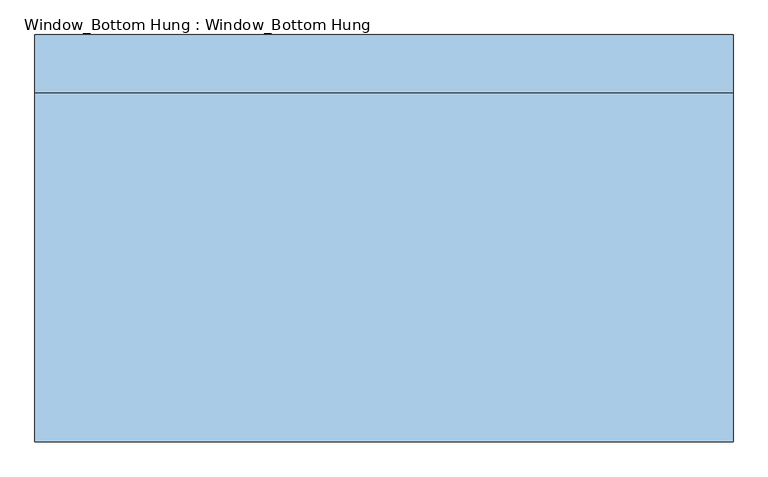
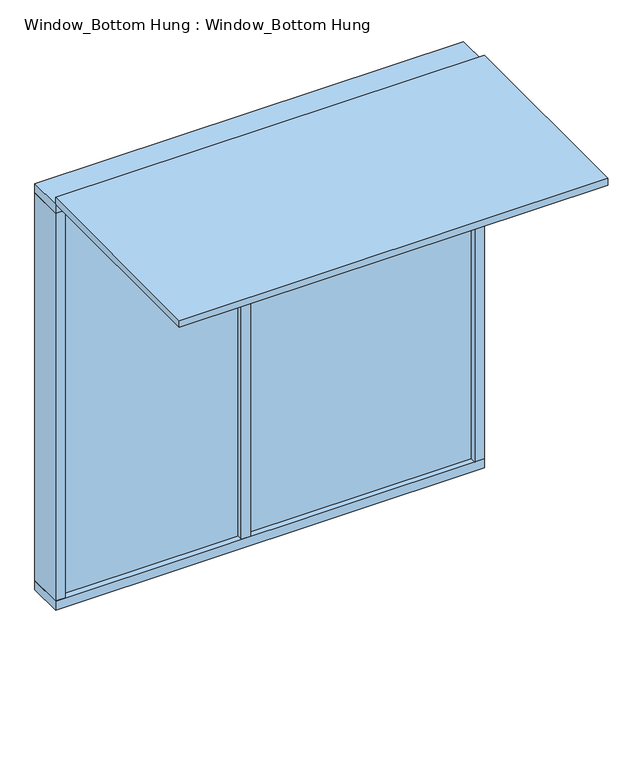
"""IFC4 building model written with IfcOpenShell, lengths in millimetres: window geometry, Window_Bottom Hung : Window_Bottom Hung."""

from ifc_helpers import new_model, si_unit, frame, origin, place, context, project, spatial, polyline, outline, extrude, source, transform, mapped, element, save


def window_bottom_hung_window_bottom_hung_36dcd069(model_context):
    return source(origin(), model_context, "Body", "SweptSolid", [
        extrude(outline(polyline([(860.0, -38.0), (860.0, -50.0), (-80.0, -50.0), (-80.0, -38.0), (860.0, -38.0)])), frame((0.0, 0.0, 1040.0), z_axis=(0.0, 0.0, 1.0), x_axis=(1.0, 0.0, 0.0)), (0.0, 0.0, 1.0), 1720.0),
        extrude(outline(polyline([(-120.0, -38.0), (-120.0, -50.0), (-860.0, -50.0), (-860.0, -38.0), (-120.0, -38.0)])), frame((0.0, 0.0, 1040.0), z_axis=(0.0, 0.0, 1.0), x_axis=(1.0, 0.0, 0.0)), (0.0, 0.0, 1.0), 1720.0),
        extrude(outline(polyline([(900.0, -75.0), (-900.0, -75.0), (-900.0, 75.0), (900.0, 75.0), (900.0, -75.0)])), frame((0.0, 0.0, 2760.0), z_axis=(0.0, 0.0, 1.0), x_axis=(1.0, 0.0, 0.0)), (0.0, 0.0, 1.0), 40.0),
        extrude(outline(polyline([(900.0, -75.0), (-900.0, -75.0), (-900.0, 75.0), (900.0, 75.0), (900.0, -75.0)])), frame((0.0, 0.0, 1000.0), z_axis=(0.0, 0.0, 1.0), x_axis=(1.0, 0.0, 0.0)), (0.0, 0.0, 1.0), 40.0),
        extrude(outline(polyline([(-120.0, 75.0), (-80.0, 75.0), (-80.0, -75.0), (-120.0, -75.0), (-120.0, 75.0)])), frame((0.0, 0.0, 1040.0), z_axis=(0.0, 0.0, 1.0), x_axis=(1.0, 0.0, 0.0)), (0.0, 0.0, 1.0), 1720.0),
        extrude(outline(polyline([(-860.0, 75.0), (-860.0, -75.0), (-900.0, -75.0), (-900.0, 75.0), (-860.0, 75.0)])), frame((0.0, 0.0, 1040.0), z_axis=(0.0, 0.0, 1.0), x_axis=(1.0, 0.0, 0.0)), (0.0, 0.0, 1.0), 1720.0),
        extrude(outline(polyline([(860.0, 75.0), (900.0, 75.0), (900.0, -75.0), (860.0, -75.0), (860.0, 75.0)])), frame((0.0, 0.0, 1040.0), z_axis=(0.0, 0.0, 1.0), x_axis=(1.0, 0.0, 0.0)), (0.0, 0.0, 1.0), 1720.0),
        extrude(outline(polyline([(900.0, -75.0), (900.0, -975.0), (-900.0, -975.0), (-900.0, -75.0), (900.0, -75.0)])), frame((0.0, 0.0, 2800.0), z_axis=(0.0, 0.0, 1.0), x_axis=(1.0, 0.0, 0.0)), (0.0, 0.0, 1.0), 30.0),
    ])


if __name__ == "__main__":
    model = new_model("IFC4")
    model_context = context("Model", 3, world=origin())
    ifc_project = project(units=[si_unit("LENGTHUNIT", "METRE", prefix="MILLI")], contexts=[model_context])
    site = spatial("IfcSite", under=ifc_project)
    building = spatial("IfcBuilding", under=site)
    placement = place(None, origin())
    window_bottom_hung_window_bottom_hung_shape = window_bottom_hung_window_bottom_hung_36dcd069(model_context)
    element("IfcWindow", 1, ObjectType="Window_Bottom Hung : Window_Bottom Hung", at=placement, inside=building, context=model_context, shape_type="MappedRepresentation", body=[
        mapped(window_bottom_hung_window_bottom_hung_shape, transform((0.0, 0.0, 0.0), x_axis=(1.0, 0.0, 0.0), y_axis=(0.0, 1.0, 0.0), z_axis=(0.0, 0.0, 1.0))),
    ])
    save(model, "model.ifc")
